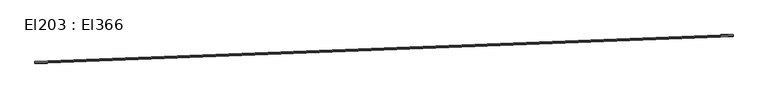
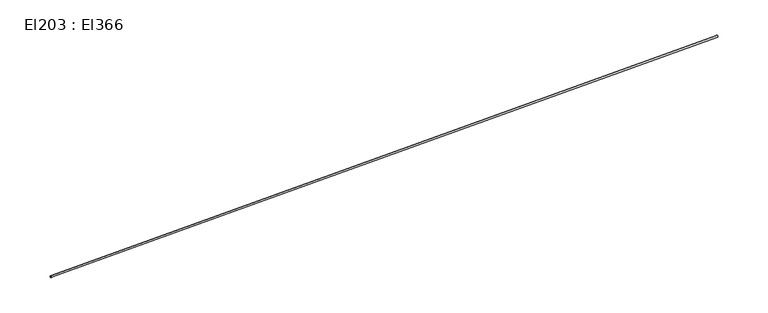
"""IFC4 building model written with IfcOpenShell, lengths in millimetres: cable carrier segment geometry, El203 : El366."""

import ifcopenshell
import ifcopenshell.guid

model = None  # the IFC model being written
_history = None  # IfcOwnerHistory: only IFC2X3 demands one
_inside = {}  # id of a spatial element -> (the spatial element, [elements in it])
_under = {}  # id of a project, library or spatial element -> (it, [spatial elements below it])
_declared = {}  # id of a project -> (the project, [libraries it declares])
_typed = {}  # id of a type object -> (the type object, [elements of that type])
_made_of = {}  # id of a material, layer set ... -> (it, [elements and type objects made of it])


def new_model(schema):
    """Start an empty IFC model of exactly this schema.

    Asked for "IFC4X3", IfcOpenShell would pick the latest addendum, in which some entities
    have other attributes; the version numbers below select the first issue.
    IFC2X3 requires an IfcOwnerHistory on every rooted entity: one is made here for all.
    """
    global model, _history
    if schema == "IFC4X3":
        model = ifcopenshell.file(schema_version=(4, 3, 0, 0))
    else:
        model = ifcopenshell.file(schema=schema)
    _inside.clear()
    _under.clear()
    _declared.clear()
    _typed.clear()
    _made_of.clear()
    _history = None
    if model.schema == "IFC2X3":
        org = make("IfcOrganization", Name="unknown")
        user = make(
            "IfcPersonAndOrganization",
            ThePerson=make("IfcPerson", FamilyName="unknown"),
            TheOrganization=org,
        )
        app = make(
            "IfcApplication",
            ApplicationDeveloper=org,
            Version="unknown",
            ApplicationFullName="unknown",
            ApplicationIdentifier="unknown",
        )
        _history = make(
            "IfcOwnerHistory",
            OwningUser=user,
            OwningApplication=app,
            ChangeAction="ADDED",
            CreationDate=0,
        )
    return model


def make(cls, **values):
    """One entity of the class cls with the attributes given. An attribute that is None is left unset."""
    return model.create_entity(
        cls, **{name: value for name, value in values.items() if value is not None}
    )


def rooted(cls, **values):
    """An entity with a GlobalId (a new one), such as an element, a storey or a relation."""
    return make(cls, GlobalId=ifcopenshell.guid.new(), OwnerHistory=_history, **values)


def si_unit(unit_type, name, prefix=None):
    """IfcSIUnit, for example si_unit("LENGTHUNIT", "METRE", prefix="MILLI")."""
    return make("IfcSIUnit", UnitType=unit_type, Prefix=prefix, Name=name)


def assignment(units):
    """IfcUnitAssignment: the units of a project."""
    return None if units is None else make("IfcUnitAssignment", Units=units)


def point(xyz):
    """IfcCartesianPoint."""
    return None if xyz is None else make("IfcCartesianPoint", Coordinates=xyz)


def direction(xyz):
    """IfcDirection."""
    return None if xyz is None else make("IfcDirection", DirectionRatios=xyz)


def frame(location, z_axis=None, x_axis=None):
    """IfcAxis2Placement3D, a coordinate frame: its origin and axes. An axis left out is left unset."""
    return make(
        "IfcAxis2Placement3D",
        Location=point(location),
        Axis=direction(z_axis),
        RefDirection=direction(x_axis),
    )


def frame_2d(location, x_axis=None):
    """IfcAxis2Placement2D, a coordinate frame in the plane: its origin and x axis."""
    return make(
        "IfcAxis2Placement2D", Location=point(location), RefDirection=direction(x_axis)
    )


def origin():
    """The frame at (0, 0, 0) with its axes left unset."""
    return frame((0.0, 0.0, 0.0))


def place(relative_to, where):
    """IfcLocalPlacement: puts the frame where relative to a parent placement (None: the world)."""
    return make(
        "IfcLocalPlacement", PlacementRelTo=relative_to, RelativePlacement=where
    )


def context(
    kind, dimensions, precision=None, world=None, true_north=None, identifier=None
):
    """IfcGeometricRepresentationContext, for example the 3D "Model" context."""
    return make(
        "IfcGeometricRepresentationContext",
        ContextIdentifier=identifier,
        ContextType=kind,
        CoordinateSpaceDimension=dimensions,
        Precision=precision,
        WorldCoordinateSystem=world,
        TrueNorth=true_north,
    )


def project(units=None, contexts=None):
    """IfcProject with its units and contexts."""
    return rooted(
        "IfcProject",
        Name="project",
        RepresentationContexts=contexts,
        UnitsInContext=assignment(units),
    )


def spatial(cls, under=None, at=None, **own):
    """A site, building, storey or space (cls), placed at a placement, below another one or the project."""
    s = rooted(cls, ObjectPlacement=at, **own)
    if under is not None:
        _under.setdefault(under.id(), (under, []))[1].append(s)
    return s


def circle_curve(where, radius):
    """IfcCircle in the frame where."""
    return make("IfcCircle", Position=where, Radius=radius)


def trimmed(basis, trim1, trim2, sense, master):
    """IfcTrimmedCurve: the piece of a basis curve between two trims."""
    return make(
        "IfcTrimmedCurve",
        BasisCurve=basis,
        Trim1=trim1,
        Trim2=trim2,
        SenseAgreement=sense,
        MasterRepresentation=master,
    )


def segment(curve, same_sense, transition):
    """IfcCompositeCurveSegment."""
    return make(
        "IfcCompositeCurveSegment",
        Transition=transition,
        SameSense=same_sense,
        ParentCurve=curve,
    )


def composite_curve(segments, self_intersect=None):
    """IfcCompositeCurve: segments joined end to end."""
    return make("IfcCompositeCurve", Segments=segments, SelfIntersect=self_intersect)


def outline(outer, holes=None, kind="AREA"):
    """IfcArbitraryClosedProfileDef: a profile drawn as a closed curve; with holes, ...WithVoids."""
    if holes is None:
        return make("IfcArbitraryClosedProfileDef", ProfileType=kind, OuterCurve=outer)
    return make(
        "IfcArbitraryProfileDefWithVoids",
        ProfileType=kind,
        OuterCurve=outer,
        InnerCurves=holes,
    )


def extrude(swept, where, along, depth):
    """IfcExtrudedAreaSolid: the profile swept, set in the frame where, extruded along a direction by depth."""
    return make(
        "IfcExtrudedAreaSolid",
        SweptArea=swept,
        Position=where,
        ExtrudedDirection=direction(along),
        Depth=depth,
    )


def shape(context_of_items, identifier, shape_type, items):
    """IfcShapeRepresentation: the items that make up one representation, for example the "Body"."""
    return make(
        "IfcShapeRepresentation",
        ContextOfItems=context_of_items,
        RepresentationIdentifier=identifier,
        RepresentationType=shape_type,
        Items=items,
    )


def source(mapping_origin, context_of_items, identifier, shape_type, items):
    """IfcRepresentationMap: a shape defined once, which mapped items show again and again."""
    return make(
        "IfcRepresentationMap",
        MappingOrigin=mapping_origin,
        MappedRepresentation=shape(context_of_items, identifier, shape_type, items),
    )


def transform(
    local_origin,
    x_axis=None,
    y_axis=None,
    z_axis=None,
    scale=None,
    scale2=None,
    scale3=None,
    uniform=True,
):
    """IfcCartesianTransformationOperator3D, or its non-uniform kind. x_axis, y_axis, z_axis: its Axis1, 2, 3."""
    if uniform:
        return make(
            "IfcCartesianTransformationOperator3D",
            Axis1=direction(x_axis),
            Axis2=direction(y_axis),
            LocalOrigin=point(local_origin),
            Scale=scale,
            Axis3=direction(z_axis),
        )
    return make(
        "IfcCartesianTransformationOperator3DnonUniform",
        Axis1=direction(x_axis),
        Axis2=direction(y_axis),
        LocalOrigin=point(local_origin),
        Scale=scale,
        Axis3=direction(z_axis),
        Scale2=scale2,
        Scale3=scale3,
    )


def mapped(mapping_source, mapping_target):
    """IfcMappedItem: shows the shape of a source again, moved by a transform."""
    return make(
        "IfcMappedItem", MappingSource=mapping_source, MappingTarget=mapping_target
    )


def made_of(thing, what):
    """Note that an element or type object is made of a material, layer set ...; save() writes the relation."""
    if what is not None:
        _made_of.setdefault(what.id(), (what, []))[1].append(thing)
    return thing


def element(
    cls,
    number,
    at=None,
    inside=None,
    cuts=None,
    type_object=None,
    material=None,
    context=None,
    identifier="Body",
    shape_type=None,
    held_by="IfcProductDefinitionShape",
    body=None,
    shapes=None,
    **own,
):
    """One element of the class cls, such as IfcWall. Its Tag is "e" and its number.

    at: its placement. inside: the storey or other place that contains it. cuts: it is an
    opening in that element (IfcRelVoidsElement). A single representation is given by context,
    identifier, shape_type and body (its items); several are given by shapes. held_by: the class
    of the entity that holds the representations. save() writes the other relations.
    """
    e = rooted(cls, Tag="e%d" % number, ObjectPlacement=at, **own)
    if body is not None:
        shapes = [shape(context, identifier, shape_type, body)]
    if shapes is not None:
        e.Representation = make(held_by, Representations=shapes)
    if inside is not None:
        _inside.setdefault(inside.id(), (inside, []))[1].append(e)
    if cuts is not None:
        rooted(
            "IfcRelVoidsElement", RelatingBuildingElement=cuts, RelatedOpeningElement=e
        )
    if type_object is not None:
        _typed.setdefault(type_object.id(), (type_object, []))[1].append(e)
    return made_of(e, material)


def aggregate(whole, parts):
    """IfcRelAggregates: a whole, such as a stair, and the parts it consists of."""
    return rooted("IfcRelAggregates", RelatingObject=whole, RelatedObjects=parts)


def save(model, path):
    """Write the relations noted so far, then the file.

    IfcRelAggregates (storeys below a building ...), IfcRelContainedInSpatialStructure (elements
    in a storey), IfcRelDefinesByType, IfcRelAssociatesMaterial and IfcRelDeclares: one each for
    every whole, place, type object, material and project.
    """
    for whole, parts in _under.values():
        aggregate(whole, parts)
    for where, things in _inside.values():
        rooted(
            "IfcRelContainedInSpatialStructure",
            RelatedElements=things,
            RelatingStructure=where,
        )
    for kind, things in _typed.values():
        rooted("IfcRelDefinesByType", RelatedObjects=things, RelatingType=kind)
    for what, things in _made_of.values():
        rooted("IfcRelAssociatesMaterial", RelatedObjects=things, RelatingMaterial=what)
    for by, libraries in _declared.values():
        rooted("IfcRelDeclares", RelatingContext=by, RelatedDefinitions=libraries)
    model.write(path)


def el203_el366_464613bc(model_context):
    return source(origin(), model_context, "Body", "SweptSolid", [
        extrude(outline(composite_curve([segment(trimmed(circle_curve(frame_2d((0.0, -9.5)), 9.5), [point((0.0, -19.0))], [point((0.0, 0.0))], False, "CARTESIAN"), True, "CONTINUOUS"), segment(trimmed(circle_curve(frame_2d((0.0, -9.5)), 9.5), [point((0.0, 0.0))], [point((0.0, -19.0))], False, "CARTESIAN"), True, "CONTINUOUS")], self_intersect=False)), frame((2015.6346511, -801.7468255, 1509.5), z_axis=(0.9992544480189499, 0.03860761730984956, 0.0), x_axis=(-0.03860761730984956, 0.9992544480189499, 0.0)), (0.0, 0.0, 1.0), 7917.02),
    ])


if __name__ == "__main__":
    model = new_model("IFC4")
    model_context = context("Model", 3, world=origin())
    ifc_project = project(units=[si_unit("LENGTHUNIT", "METRE", prefix="MILLI")], contexts=[model_context])
    site = spatial("IfcSite", under=ifc_project)
    building = spatial("IfcBuilding", under=site)
    placement = place(None, origin())
    el203_el366_shape = el203_el366_464613bc(model_context)
    element("IfcCableCarrierSegment", 1, ObjectType="El203 : El366", at=placement, inside=building, context=model_context, shape_type="MappedRepresentation", body=[
        mapped(el203_el366_shape, transform((0.0, 0.0, 0.0), x_axis=(1.0, 0.0, 0.0), y_axis=(0.0, 1.0, 0.0), z_axis=(0.0, 0.0, 1.0))),
    ])
    save(model, "model.ifc")
